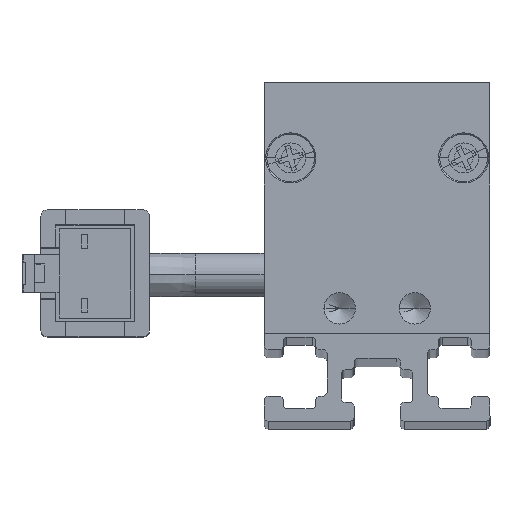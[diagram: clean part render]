
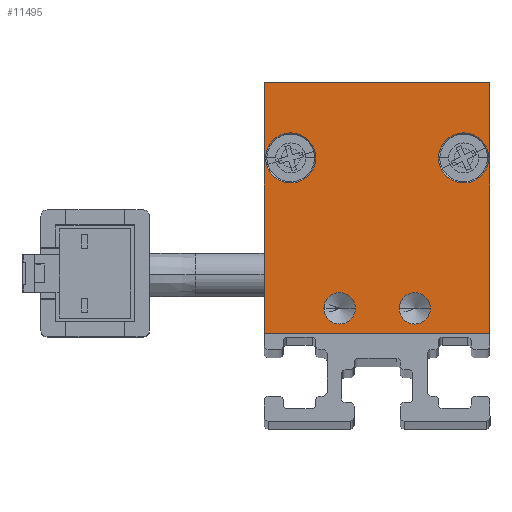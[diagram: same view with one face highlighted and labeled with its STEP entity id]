
A CAD part, top view. The second image highlights one B-rep face of the part: STEP entity #11495.
In plain terms, the highlighted planar face has unit normal (0, 0, 1) as drawn and (0, 0, -1) by its records, which use the part's own axes.
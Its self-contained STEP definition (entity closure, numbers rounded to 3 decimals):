
#94 = EDGE_LOOP ( 'NONE', ( #1674, #9535 ) ) ;
#119 = AXIS2_PLACEMENT_3D ( 'NONE', #7497, #3697, #10477 ) ;
#121 = CIRCLE ( 'NONE', #3311, 1.25 ) ;
#464 = EDGE_CURVE ( 'NONE', #11469, #8960, #6290, .T. ) ;
#468 = VERTEX_POINT ( 'NONE', #709 ) ;
#505 = AXIS2_PLACEMENT_3D ( 'NONE', #2101, #6955, #5174 ) ;
#709 = CARTESIAN_POINT ( 'NONE',  ( -4.25, 2., -2.5 ) ) ;
#972 = ORIENTED_EDGE ( 'NONE', *, *, #464, .F. ) ;
#1050 = CARTESIAN_POINT ( 'NONE',  ( 8.9, 14., -2.5 ) ) ;
#1139 = ORIENTED_EDGE ( 'NONE', *, *, #8448, .F. ) ;
#1244 = DIRECTION ( 'NONE',  ( 0., 1., 0. ) ) ;
#1300 = CIRCLE ( 'NONE', #2915, 2. ) ;
#1395 = ORIENTED_EDGE ( 'NONE', *, *, #11617, .F. ) ;
#1456 = EDGE_CURVE ( 'NONE', #9490, #12107, #3679, .T. ) ;
#1488 = DIRECTION ( 'NONE',  ( -1., 0., 0. ) ) ;
#1674 = ORIENTED_EDGE ( 'NONE', *, *, #2855, .F. ) ;
#2101 = CARTESIAN_POINT ( 'NONE',  ( 6.9, 14., -2.5 ) ) ;
#2135 = LINE ( 'NONE', #6807, #7545 ) ;
#2257 = CARTESIAN_POINT ( 'NONE',  ( -9., 0., -2.5 ) ) ;
#2432 = ORIENTED_EDGE ( 'NONE', *, *, #4580, .F. ) ;
#2698 = VERTEX_POINT ( 'NONE', #8727 ) ;
#2779 = AXIS2_PLACEMENT_3D ( 'NONE', #10869, #10038, #6116 ) ;
#2855 = EDGE_CURVE ( 'NONE', #7434, #12326, #10590, .T. ) ;
#2892 = FACE_BOUND ( 'NONE', #6131, .T. ) ;
#2915 = AXIS2_PLACEMENT_3D ( 'NONE', #4476, #8327, #3534 ) ;
#2942 = DIRECTION ( 'NONE',  ( 0., 0., -1. ) ) ;
#3039 = EDGE_CURVE ( 'NONE', #468, #9275, #121, .T. ) ;
#3087 = CARTESIAN_POINT ( 'NONE',  ( -1.75, 2., -2.5 ) ) ;
#3311 = AXIS2_PLACEMENT_3D ( 'NONE', #8261, #11248, #6185 ) ;
#3346 = VECTOR ( 'NONE', #11194, 1000. ) ;
#3361 = ORIENTED_EDGE ( 'NONE', *, *, #3564, .F. ) ;
#3534 = DIRECTION ( 'NONE',  ( -1., 0., 0. ) ) ;
#3564 = EDGE_CURVE ( 'NONE', #2698, #9935, #2135, .T. ) ;
#3679 = CIRCLE ( 'NONE', #9544, 1.25 ) ;
#3697 = DIRECTION ( 'NONE',  ( 0., 0., -1. ) ) ;
#3765 = FACE_BOUND ( 'NONE', #10011, .T. ) ;
#3802 = EDGE_CURVE ( 'NONE', #8960, #11469, #6929, .T. ) ;
#3830 = CARTESIAN_POINT ( 'NONE',  ( -8.9, 14., -2.5 ) ) ;
#3951 = VERTEX_POINT ( 'NONE', #4996 ) ;
#4177 = EDGE_CURVE ( 'NONE', #12326, #7434, #1300, .T. ) ;
#4320 = DIRECTION ( 'NONE',  ( 0., 0., -1. ) ) ;
#4326 = CARTESIAN_POINT ( 'NONE',  ( -9., 20., -2.5 ) ) ;
#4476 = CARTESIAN_POINT ( 'NONE',  ( 6.9, 14., -2.5 ) ) ;
#4503 = ORIENTED_EDGE ( 'NONE', *, *, #9318, .F. ) ;
#4580 = EDGE_CURVE ( 'NONE', #9275, #468, #5948, .T. ) ;
#4786 = FACE_BOUND ( 'NONE', #94, .T. ) ;
#4996 = CARTESIAN_POINT ( 'NONE',  ( -9., 20., -2.5 ) ) ;
#5016 = CARTESIAN_POINT ( 'NONE',  ( 3., 2., -2.5 ) ) ;
#5174 = DIRECTION ( 'NONE',  ( -1., 0., 0. ) ) ;
#5538 = ORIENTED_EDGE ( 'NONE', *, *, #3802, .F. ) ;
#5671 = DIRECTION ( 'NONE',  ( 0., 0., 1. ) ) ;
#5681 = DIRECTION ( 'NONE',  ( -1., 0., 0. ) ) ;
#5798 = FACE_OUTER_BOUND ( 'NONE', #10625, .T. ) ;
#5948 = CIRCLE ( 'NONE', #119, 1.25 ) ;
#6116 = DIRECTION ( 'NONE',  ( -1., 0., 0. ) ) ;
#6131 = EDGE_LOOP ( 'NONE', ( #7027, #2432 ) ) ;
#6185 = DIRECTION ( 'NONE',  ( -1., 0., 0. ) ) ;
#6290 = CIRCLE ( 'NONE', #11935, 2. ) ;
#6345 = EDGE_CURVE ( 'NONE', #9935, #3951, #7328, .T. ) ;
#6389 = CARTESIAN_POINT ( 'NONE',  ( -9., 20., -2.5 ) ) ;
#6508 = EDGE_LOOP ( 'NONE', ( #4503, #9124 ) ) ;
#6807 = CARTESIAN_POINT ( 'NONE',  ( 9., 20., -2.5 ) ) ;
#6929 = CIRCLE ( 'NONE', #11381, 2. ) ;
#6955 = DIRECTION ( 'NONE',  ( 0., 0., -1. ) ) ;
#7027 = ORIENTED_EDGE ( 'NONE', *, *, #3039, .F. ) ;
#7098 = CARTESIAN_POINT ( 'NONE',  ( -6.9, 14., -2.5 ) ) ;
#7232 = VECTOR ( 'NONE', #11798, 1000. ) ;
#7328 = LINE ( 'NONE', #6389, #3346 ) ;
#7434 = VERTEX_POINT ( 'NONE', #10450 ) ;
#7465 = CARTESIAN_POINT ( 'NONE',  ( -4.9, 14., -2.5 ) ) ;
#7497 = CARTESIAN_POINT ( 'NONE',  ( -3., 2., -2.5 ) ) ;
#7509 = CARTESIAN_POINT ( 'NONE',  ( 4.25, 2., -2.5 ) ) ;
#7545 = VECTOR ( 'NONE', #1244, 1000. ) ;
#7559 = CARTESIAN_POINT ( 'NONE',  ( -9., 0., -2.5 ) ) ;
#7715 = AXIS2_PLACEMENT_3D ( 'NONE', #10482, #5671, #9718 ) ;
#7993 = LINE ( 'NONE', #4326, #9926 ) ;
#8261 = CARTESIAN_POINT ( 'NONE',  ( -3., 2., -2.5 ) ) ;
#8327 = DIRECTION ( 'NONE',  ( 0., 0., -1. ) ) ;
#8448 = EDGE_CURVE ( 'NONE', #9940, #2698, #8888, .T. ) ;
#8583 = CARTESIAN_POINT ( 'NONE',  ( -6.9, 14., -2.5 ) ) ;
#8727 = CARTESIAN_POINT ( 'NONE',  ( 9., 0., -2.5 ) ) ;
#8828 = ORIENTED_EDGE ( 'NONE', *, *, #6345, .F. ) ;
#8888 = LINE ( 'NONE', #2257, #7232 ) ;
#8960 = VERTEX_POINT ( 'NONE', #7465 ) ;
#9124 = ORIENTED_EDGE ( 'NONE', *, *, #1456, .F. ) ;
#9275 = VERTEX_POINT ( 'NONE', #3087 ) ;
#9318 = EDGE_CURVE ( 'NONE', #12107, #9490, #12463, .T. ) ;
#9490 = VERTEX_POINT ( 'NONE', #7509 ) ;
#9535 = ORIENTED_EDGE ( 'NONE', *, *, #4177, .F. ) ;
#9544 = AXIS2_PLACEMENT_3D ( 'NONE', #5016, #2942, #10650 ) ;
#9660 = PLANE ( 'NONE',  #7715 ) ;
#9718 = DIRECTION ( 'NONE',  ( 1., 0., 0. ) ) ;
#9926 = VECTOR ( 'NONE', #11853, 1000. ) ;
#9935 = VERTEX_POINT ( 'NONE', #12292 ) ;
#9940 = VERTEX_POINT ( 'NONE', #7559 ) ;
#10011 = EDGE_LOOP ( 'NONE', ( #972, #5538 ) ) ;
#10038 = DIRECTION ( 'NONE',  ( 0., 0., -1. ) ) ;
#10450 = CARTESIAN_POINT ( 'NONE',  ( 4.9, 14., -2.5 ) ) ;
#10477 = DIRECTION ( 'NONE',  ( -1., 0., 0. ) ) ;
#10482 = CARTESIAN_POINT ( 'NONE',  ( 0., 0., -2.5 ) ) ;
#10590 = CIRCLE ( 'NONE', #505, 2. ) ;
#10625 = EDGE_LOOP ( 'NONE', ( #1395, #8828, #3361, #1139 ) ) ;
#10650 = DIRECTION ( 'NONE',  ( -1., 0., 0. ) ) ;
#10869 = CARTESIAN_POINT ( 'NONE',  ( 3., 2., -2.5 ) ) ;
#11194 = DIRECTION ( 'NONE',  ( -1., 0., 0. ) ) ;
#11248 = DIRECTION ( 'NONE',  ( 0., 0., -1. ) ) ;
#11381 = AXIS2_PLACEMENT_3D ( 'NONE', #7098, #4320, #1488 ) ;
#11469 = VERTEX_POINT ( 'NONE', #3830 ) ;
#11495 = ADVANCED_FACE ( 'NONE', ( #4786, #3765, #11552, #2892, #5798 ), #9660, .F. ) ;
#11552 = FACE_BOUND ( 'NONE', #6508, .T. ) ;
#11617 = EDGE_CURVE ( 'NONE', #3951, #9940, #7993, .T. ) ;
#11798 = DIRECTION ( 'NONE',  ( 1., 0., 0. ) ) ;
#11853 = DIRECTION ( 'NONE',  ( 0., -1., 0. ) ) ;
#11935 = AXIS2_PLACEMENT_3D ( 'NONE', #8583, #12376, #5681 ) ;
#12091 = CARTESIAN_POINT ( 'NONE',  ( 1.75, 2., -2.5 ) ) ;
#12107 = VERTEX_POINT ( 'NONE', #12091 ) ;
#12292 = CARTESIAN_POINT ( 'NONE',  ( 9., 20., -2.5 ) ) ;
#12326 = VERTEX_POINT ( 'NONE', #1050 ) ;
#12376 = DIRECTION ( 'NONE',  ( 0., 0., -1. ) ) ;
#12463 = CIRCLE ( 'NONE', #2779, 1.25 ) ;
